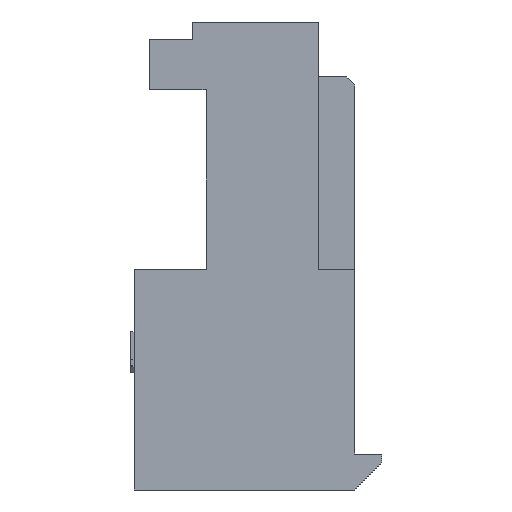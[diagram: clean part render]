
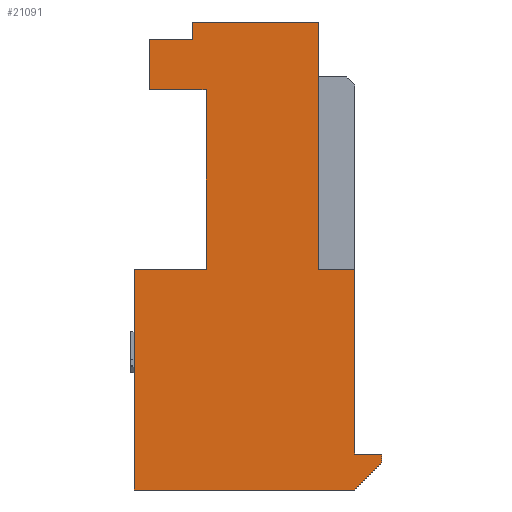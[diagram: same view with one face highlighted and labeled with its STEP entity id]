
A CAD part, left-side view. The second image highlights one B-rep face of the part: STEP entity #21091.
In plain terms, the highlighted planar face has unit normal (-1, 0, 0).
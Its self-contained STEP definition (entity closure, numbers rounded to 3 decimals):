
#134=DIRECTION('',(0.,0.,-1.));
#135=VECTOR('',#134,1.422);
#136=CARTESIAN_POINT('',(-19.05,2.921,-0.483));
#137=LINE('',#136,#135);
#138=DIRECTION('',(0.,1.,0.));
#139=VECTOR('',#138,1.219);
#140=CARTESIAN_POINT('',(-19.05,1.702,-0.483));
#141=LINE('',#140,#139);
#142=DIRECTION('',(0.,0.,-1.));
#143=VECTOR('',#142,0.483);
#144=CARTESIAN_POINT('',(-19.05,1.702,0.));
#145=LINE('',#144,#143);
#146=DIRECTION('',(0.,-1.,0.));
#147=VECTOR('',#146,1.016);
#148=CARTESIAN_POINT('',(-19.05,-1.854,-6.985));
#149=LINE('',#148,#147);
#150=DIRECTION('',(0.,0.,-1.));
#151=VECTOR('',#150,5.207);
#152=CARTESIAN_POINT('',(-19.05,-2.87,-6.985));
#153=LINE('',#152,#151);
#154=DIRECTION('',(0.,-1.,0.));
#155=VECTOR('',#154,0.762);
#156=CARTESIAN_POINT('',(-19.05,-2.87,-12.192));
#157=LINE('',#156,#155);
#158=DIRECTION('',(0.,0.,-1.));
#159=VECTOR('',#158,0.254);
#160=CARTESIAN_POINT('',(-19.05,-3.632,-12.192));
#161=LINE('',#160,#159);
#162=DIRECTION('',(0.,0.707,-0.707));
#163=VECTOR('',#162,1.078);
#164=CARTESIAN_POINT('',(-19.05,-3.632,-12.446));
#165=LINE('',#164,#163);
#166=DIRECTION('',(0.,1.,0.));
#167=VECTOR('',#166,6.223);
#168=CARTESIAN_POINT('',(-19.05,-2.87,-13.208));
#169=LINE('',#168,#167);
#170=DIRECTION('',(0.,0.,1.));
#171=VECTOR('',#170,6.223);
#172=CARTESIAN_POINT('',(-19.05,3.353,-13.208));
#173=LINE('',#172,#171);
#174=DIRECTION('',(0.,-1.,0.));
#175=VECTOR('',#174,2.032);
#176=CARTESIAN_POINT('',(-19.05,3.353,-6.985));
#177=LINE('',#176,#175);
#178=DIRECTION('',(0.,0.,1.));
#179=VECTOR('',#178,5.08);
#180=CARTESIAN_POINT('',(-19.05,1.321,-6.985));
#181=LINE('',#180,#179);
#190=DIRECTION('',(0.,-1.,0.));
#191=VECTOR('',#190,1.6);
#192=CARTESIAN_POINT('',(-19.05,2.921,-1.905));
#193=LINE('',#192,#191);
#498=DIRECTION('',(0.,1.,0.));
#499=VECTOR('',#498,3.556);
#500=CARTESIAN_POINT('',(-19.05,-1.854,0.));
#501=LINE('',#500,#499);
#1538=DIRECTION('',(0.,0.,1.));
#1539=VECTOR('',#1538,6.985);
#1540=CARTESIAN_POINT('',(-19.05,-1.854,-6.985));
#1541=LINE('',#1540,#1539);
#15986=CARTESIAN_POINT('',(-19.05,-1.854,0.));
#15988=VERTEX_POINT('',#15986);
#15990=CARTESIAN_POINT('',(-19.05,-2.87,-12.192));
#15991=CARTESIAN_POINT('',(-19.05,-3.632,-12.192));
#15992=VERTEX_POINT('',#15990);
#15993=VERTEX_POINT('',#15991);
#15994=CARTESIAN_POINT('',(-19.05,-3.632,-12.446));
#15995=VERTEX_POINT('',#15994);
#15996=CARTESIAN_POINT('',(-19.05,-2.87,-13.208));
#15997=VERTEX_POINT('',#15996);
#15998=CARTESIAN_POINT('',(-19.05,3.353,-13.208));
#15999=VERTEX_POINT('',#15998);
#16000=CARTESIAN_POINT('',(-19.05,3.353,-6.985));
#16001=VERTEX_POINT('',#16000);
#16002=CARTESIAN_POINT('',(-19.05,1.321,-6.985));
#16003=VERTEX_POINT('',#16002);
#16070=CARTESIAN_POINT('',(-19.05,1.321,-1.905));
#16071=VERTEX_POINT('',#16070);
#16162=CARTESIAN_POINT('',(-19.05,-1.854,-6.985));
#16163=CARTESIAN_POINT('',(-19.05,-2.87,-6.985));
#16164=VERTEX_POINT('',#16162);
#16165=VERTEX_POINT('',#16163);
#16292=CARTESIAN_POINT('',(-19.05,1.702,0.));
#16293=CARTESIAN_POINT('',(-19.05,1.702,-0.483));
#16294=VERTEX_POINT('',#16292);
#16295=VERTEX_POINT('',#16293);
#16296=CARTESIAN_POINT('',(-19.05,2.921,-0.483));
#16297=VERTEX_POINT('',#16296);
#16298=CARTESIAN_POINT('',(-19.05,2.921,-1.905));
#16299=VERTEX_POINT('',#16298);
#21054=CARTESIAN_POINT('',(-19.05,0.,0.));
#21055=DIRECTION('',(1.,0.,0.));
#21056=DIRECTION('',(0.,0.,-1.));
#21057=AXIS2_PLACEMENT_3D('',#21054,#21055,#21056);
#21058=PLANE('',#21057);
#21060=ORIENTED_EDGE('',*,*,#21059,.F.);
#21062=ORIENTED_EDGE('',*,*,#21061,.F.);
#21064=ORIENTED_EDGE('',*,*,#21063,.F.);
#21066=ORIENTED_EDGE('',*,*,#21065,.F.);
#21068=ORIENTED_EDGE('',*,*,#21067,.F.);
#21070=ORIENTED_EDGE('',*,*,#21069,.F.);
#21072=ORIENTED_EDGE('',*,*,#21071,.T.);
#21074=ORIENTED_EDGE('',*,*,#21073,.T.);
#21076=ORIENTED_EDGE('',*,*,#21075,.T.);
#21078=ORIENTED_EDGE('',*,*,#21077,.T.);
#21080=ORIENTED_EDGE('',*,*,#21079,.T.);
#21082=ORIENTED_EDGE('',*,*,#21081,.T.);
#21084=ORIENTED_EDGE('',*,*,#21083,.T.);
#21086=ORIENTED_EDGE('',*,*,#21085,.T.);
#21088=ORIENTED_EDGE('',*,*,#21087,.T.);
#21089=EDGE_LOOP('',(#21060,#21062,#21064,#21066,#21068,#21070,#21072,#21074,
#21076,#21078,#21080,#21082,#21084,#21086,#21088));
#21090=FACE_OUTER_BOUND('',#21089,.F.);
#21059=EDGE_CURVE('',#16299,#16071,#193,.T.);
#21061=EDGE_CURVE('',#16297,#16299,#137,.T.);
#21063=EDGE_CURVE('',#16295,#16297,#141,.T.);
#21065=EDGE_CURVE('',#16294,#16295,#145,.T.);
#21067=EDGE_CURVE('',#15988,#16294,#501,.T.);
#21069=EDGE_CURVE('',#16164,#15988,#1541,.T.);
#21071=EDGE_CURVE('',#16164,#16165,#149,.T.);
#21073=EDGE_CURVE('',#16165,#15992,#153,.T.);
#21075=EDGE_CURVE('',#15992,#15993,#157,.T.);
#21077=EDGE_CURVE('',#15993,#15995,#161,.T.);
#21079=EDGE_CURVE('',#15995,#15997,#165,.T.);
#21081=EDGE_CURVE('',#15997,#15999,#169,.T.);
#21083=EDGE_CURVE('',#15999,#16001,#173,.T.);
#21085=EDGE_CURVE('',#16001,#16003,#177,.T.);
#21087=EDGE_CURVE('',#16003,#16071,#181,.T.);
#21091=ADVANCED_FACE('',(#21090),#21058,.F.);
